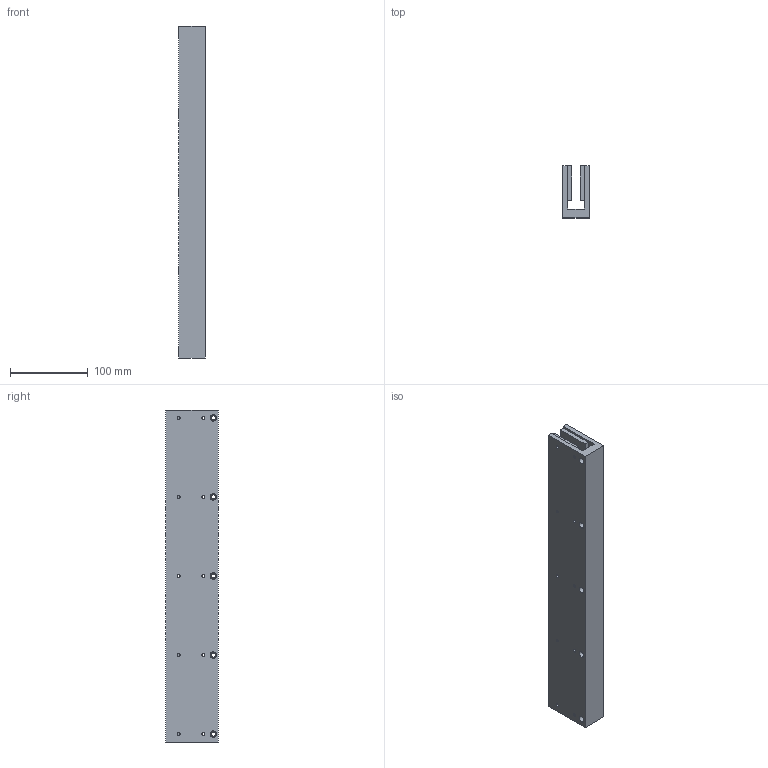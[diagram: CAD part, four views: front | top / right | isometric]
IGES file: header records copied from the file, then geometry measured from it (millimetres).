
Global section: file name: No Iges File Name specified; native system: Autodesk Inventor 2009; preprocessor: AutoDesk Inventor Iges Exporter R2009; author: je17857; date: 20091116.111455; units: inch
Bounding box: 34.29 x 67.31 x 426.72 mm (x, y, z)
Volume: 636814.4 mm3; surface area: 162714 mm2
Topology: 1 solids, 1 shells, 238 faces, 570 edges, 380 vertices
Faces by surface type: plane 158, bspline 80
